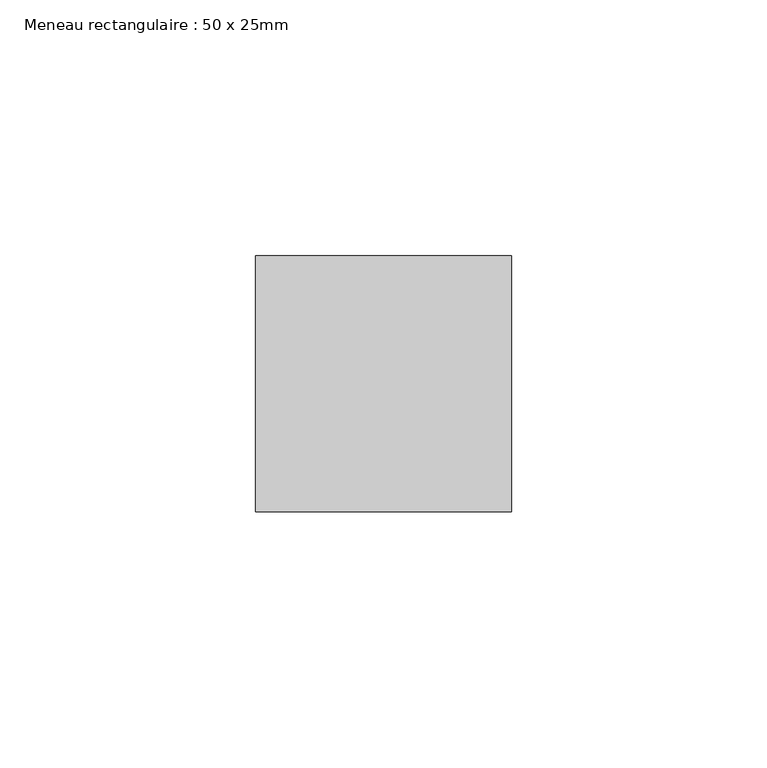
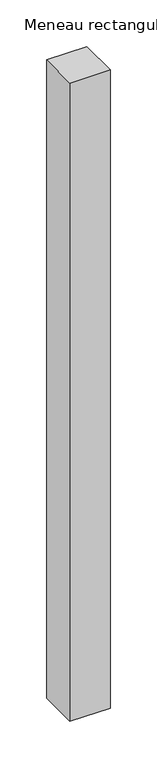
"""IFC4 building model written with IfcOpenShell, lengths in millimetres: member geometry, Meneau rectangulaire : 50 x 25mm."""

from ifc_helpers import new_model, si_unit, frame, origin, place, context, project, spatial, polyline, outline, extrude, source, transform, mapped, element, save


def meneau_rectangulaire_50_x_25mm_e421088a(model_context):
    return source(origin(), model_context, "Body", "SweptSolid", [
        extrude(outline(polyline([(25.0, 0.0), (25.0, -50.0), (-25.0, -50.0), (-25.0, 0.0), (25.0, 0.0)])), frame((0.0, 0.0, -836.0), z_axis=(0.0, 0.0, 1.0), x_axis=(1.0, 0.0, 0.0)), (0.0, 0.0, 1.0), 836.0),
    ])


if __name__ == "__main__":
    model = new_model("IFC4")
    model_context = context("Model", 3, world=origin())
    ifc_project = project(units=[si_unit("LENGTHUNIT", "METRE", prefix="MILLI")], contexts=[model_context])
    site = spatial("IfcSite", under=ifc_project)
    building = spatial("IfcBuilding", under=site)
    placement = place(None, origin())
    meneau_rectangulaire_50_x_25mm_shape = meneau_rectangulaire_50_x_25mm_e421088a(model_context)
    element("IfcMember", 1, ObjectType="Meneau rectangulaire : 50 x 25mm", at=placement, inside=building, context=model_context, shape_type="MappedRepresentation", body=[
        mapped(meneau_rectangulaire_50_x_25mm_shape, transform((0.0, 0.0, 0.0), x_axis=(1.0, 0.0, 0.0), y_axis=(0.0, 1.0, 0.0), z_axis=(0.0, 0.0, 1.0))),
    ])
    save(model, "model.ifc")
